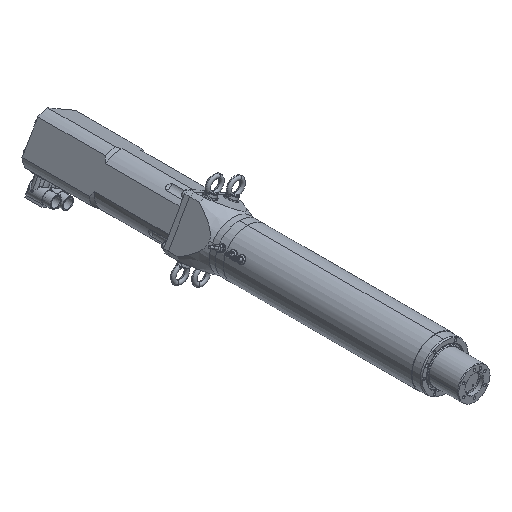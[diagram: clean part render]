
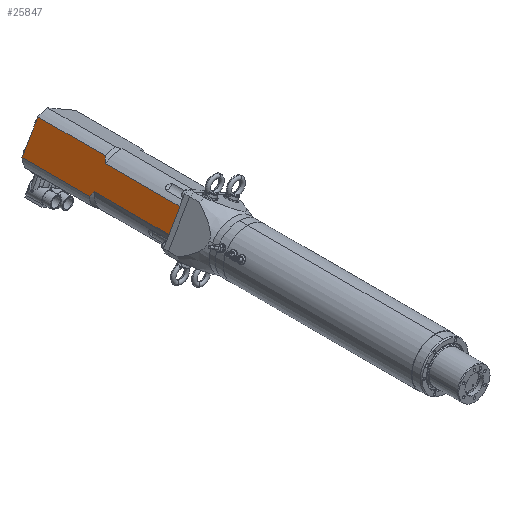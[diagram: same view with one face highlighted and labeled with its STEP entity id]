
A CAD part, isometric view. The second image highlights one B-rep face of the part: STEP entity #25847.
In plain terms, the highlighted planar face has unit normal (-0.866, 0, 0.5).
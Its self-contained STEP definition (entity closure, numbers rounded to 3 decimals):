
#739 = EDGE_CURVE ( 'NONE', #15507, #2275, #37670, .T. ) ;
#1729 = VECTOR ( 'NONE', #23487, 1000. ) ;
#1895 = VECTOR ( 'NONE', #28760, 1000. ) ;
#2275 = VERTEX_POINT ( 'NONE', #25776 ) ;
#2624 = ORIENTED_EDGE ( 'NONE', *, *, #30371, .T. ) ;
#2640 = FACE_OUTER_BOUND ( 'NONE', #36042, .T. ) ;
#2739 = B_SPLINE_CURVE_WITH_KNOTS ( 'NONE', 3,
 ( #25529, #32202, #5470, #39717 ),
 .UNSPECIFIED., .F., .F.,
 ( 4, 4 ),
 ( 0., 0.011 ),
 .UNSPECIFIED. ) ;
#2801 = CARTESIAN_POINT ( 'NONE',  ( -42.317, 306.598, 45.327 ) ) ;
#3011 = VERTEX_POINT ( 'NONE', #37612 ) ;
#3393 = CARTESIAN_POINT ( 'NONE',  ( -64.67, 306.598, 6.611 ) ) ;
#3736 = EDGE_CURVE ( 'NONE', #31637, #40491, #2739, .T. ) ;
#3904 = CARTESIAN_POINT ( 'NONE',  ( -42.32, 306.598, 45.322 ) ) ;
#4086 = CARTESIAN_POINT ( 'NONE',  ( -64.67, 151.258, 6.611 ) ) ;
#4942 = LINE ( 'NONE', #28126, #34931 ) ;
#5470 = CARTESIAN_POINT ( 'NONE',  ( -38.926, 309.76, 51.2 ) ) ;
#6667 = CARTESIAN_POINT ( 'NONE',  ( -42.32, 306.598, 45.322 ) ) ;
#7914 = VECTOR ( 'NONE', #15530, 1000. ) ;
#8094 = CARTESIAN_POINT ( 'NONE',  ( -69.695, 311.598, -2.093 ) ) ;
#8743 = ORIENTED_EDGE ( 'NONE', *, *, #37055, .T. ) ;
#8942 = CARTESIAN_POINT ( 'NONE',  ( -37.295, 141.258, 54.026 ) ) ;
#9614 = LINE ( 'NONE', #23280, #1729 ) ;
#10098 = CARTESIAN_POINT ( 'NONE',  ( -69.695, 311.598, -2.093 ) ) ;
#10238 = ORIENTED_EDGE ( 'NONE', *, *, #3736, .T. ) ;
#10815 = EDGE_CURVE ( 'NONE', #39247, #22735, #28548, .T. ) ;
#11948 = VECTOR ( 'NONE', #12544, 1000. ) ;
#12544 = DIRECTION ( 'NONE',  ( 0., 1., 0. ) ) ;
#12561 = PLANE ( 'NONE',  #41049 ) ;
#13015 = CARTESIAN_POINT ( 'NONE',  ( -66.397, 308.066, 3.621 ) ) ;
#13579 = CARTESIAN_POINT ( 'NONE',  ( -37.295, 311.598, 54.026 ) ) ;
#15067 = LINE ( 'NONE', #15296, #7914 ) ;
#15147 = DIRECTION ( 'NONE',  ( 0.5, 0., 0.866 ) ) ;
#15267 = VECTOR ( 'NONE', #17434, 1000. ) ;
#15296 = CARTESIAN_POINT ( 'NONE',  ( -37.295, 306.598, 54.026 ) ) ;
#15507 = VERTEX_POINT ( 'NONE', #6667 ) ;
#15530 = DIRECTION ( 'NONE',  ( 0.5, 0., 0.866 ) ) ;
#15766 = EDGE_CURVE ( 'NONE', #23940, #22735, #32785, .T. ) ;
#16484 = ORIENTED_EDGE ( 'NONE', *, *, #31809, .T. ) ;
#16577 = CARTESIAN_POINT ( 'NONE',  ( -37.295, 141.258, 54.026 ) ) ;
#16935 = DIRECTION ( 'NONE',  ( 0., -1., 0. ) ) ;
#17257 = EDGE_CURVE ( 'NONE', #43108, #2275, #4942, .T. ) ;
#17400 = ORIENTED_EDGE ( 'NONE', *, *, #36340, .T. ) ;
#17434 = DIRECTION ( 'NONE',  ( 0., -1., 0. ) ) ;
#19258 = EDGE_CURVE ( 'NONE', #41898, #43108, #43612, .T. ) ;
#19392 = DIRECTION ( 'NONE',  ( 0., 1., 0. ) ) ;
#22735 = VERTEX_POINT ( 'NONE', #32673 ) ;
#23280 = CARTESIAN_POINT ( 'NONE',  ( -37.295, 306.598, 54.026 ) ) ;
#23487 = DIRECTION ( 'NONE',  ( 0.5, 0., 0.866 ) ) ;
#23940 = VERTEX_POINT ( 'NONE', #8094 ) ;
#24249 = ORIENTED_EDGE ( 'NONE', *, *, #19258, .T. ) ;
#25011 = CARTESIAN_POINT ( 'NONE',  ( -64.67, 306.598, 6.611 ) ) ;
#25529 = CARTESIAN_POINT ( 'NONE',  ( -42.317, 306.598, 45.327 ) ) ;
#25776 = CARTESIAN_POINT ( 'NONE',  ( -42.32, 151.258, 45.322 ) ) ;
#25847 = ADVANCED_FACE ( 'NONE', ( #2640 ), #12561, .F. ) ;
#27105 = CARTESIAN_POINT ( 'NONE',  ( -68.064, 309.76, 0.733 ) ) ;
#28126 = CARTESIAN_POINT ( 'NONE',  ( -37.295, 151.258, 54.026 ) ) ;
#28548 = LINE ( 'NONE', #42321, #1895 ) ;
#28760 = DIRECTION ( 'NONE',  ( -0.5, 0., -0.866 ) ) ;
#29283 = DIRECTION ( 'NONE',  ( 0.5, 0., 0.866 ) ) ;
#30177 = DIRECTION ( 'NONE',  ( 0.866, 0., -0.5 ) ) ;
#30371 = EDGE_CURVE ( 'NONE', #15507, #31637, #9614, .T. ) ;
#31604 = VECTOR ( 'NONE', #16935, 1000. ) ;
#31637 = VERTEX_POINT ( 'NONE', #2801 ) ;
#31809 = EDGE_CURVE ( 'NONE', #3011, #41898, #15067, .T. ) ;
#32202 = CARTESIAN_POINT ( 'NONE',  ( -40.594, 308.066, 48.313 ) ) ;
#32673 = CARTESIAN_POINT ( 'NONE',  ( -69.695, 449.758, -2.093 ) ) ;
#32785 = LINE ( 'NONE', #39664, #34184 ) ;
#34184 = VECTOR ( 'NONE', #19392, 1000. ) ;
#34656 = B_SPLINE_CURVE_WITH_KNOTS ( 'NONE', 3,
 ( #10098, #27105, #13015, #40173 ),
 .UNSPECIFIED., .F., .F.,
 ( 4, 4 ),
 ( 0., 0.011 ),
 .UNSPECIFIED. ) ;
#34931 = VECTOR ( 'NONE', #15147, 1000. ) ;
#36042 = EDGE_LOOP ( 'NONE', ( #39403, #17400, #16484, #24249, #41041, #38550, #2624, #10238, #8743, #40894 ) ) ;
#36340 = EDGE_CURVE ( 'NONE', #23940, #3011, #34656, .T. ) ;
#37055 = EDGE_CURVE ( 'NONE', #40491, #39247, #39059, .T. ) ;
#37612 = CARTESIAN_POINT ( 'NONE',  ( -64.673, 306.598, 6.606 ) ) ;
#37670 = LINE ( 'NONE', #3904, #15267 ) ;
#38174 = CARTESIAN_POINT ( 'NONE',  ( -37.295, 449.758, 54.026 ) ) ;
#38550 = ORIENTED_EDGE ( 'NONE', *, *, #739, .F. ) ;
#39059 = LINE ( 'NONE', #8942, #11948 ) ;
#39247 = VERTEX_POINT ( 'NONE', #38174 ) ;
#39403 = ORIENTED_EDGE ( 'NONE', *, *, #15766, .F. ) ;
#39664 = CARTESIAN_POINT ( 'NONE',  ( -69.695, 141.258, -2.093 ) ) ;
#39717 = CARTESIAN_POINT ( 'NONE',  ( -37.295, 311.598, 54.026 ) ) ;
#40173 = CARTESIAN_POINT ( 'NONE',  ( -64.673, 306.598, 6.606 ) ) ;
#40491 = VERTEX_POINT ( 'NONE', #13579 ) ;
#40894 = ORIENTED_EDGE ( 'NONE', *, *, #10815, .T. ) ;
#41041 = ORIENTED_EDGE ( 'NONE', *, *, #17257, .T. ) ;
#41049 = AXIS2_PLACEMENT_3D ( 'NONE', #16577, #30177, #29283 ) ;
#41898 = VERTEX_POINT ( 'NONE', #25011 ) ;
#42321 = CARTESIAN_POINT ( 'NONE',  ( -37.295, 449.758, 54.026 ) ) ;
#43108 = VERTEX_POINT ( 'NONE', #4086 ) ;
#43612 = LINE ( 'NONE', #3393, #31604 ) ;
